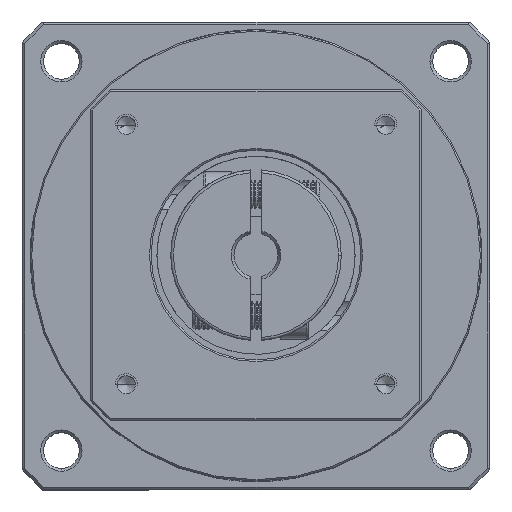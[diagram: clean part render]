
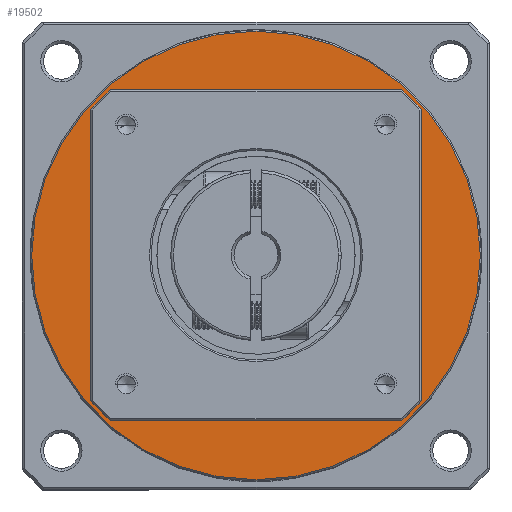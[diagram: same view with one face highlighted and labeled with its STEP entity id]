
A CAD part, top view. The second image highlights one B-rep face of the part: STEP entity #19502.
In plain terms, the highlighted planar face has unit normal (0, 0, 1).
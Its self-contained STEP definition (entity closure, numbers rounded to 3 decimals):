
#2760 = EDGE_CURVE ( 'NONE', #104283, #95379, #100036, .T. ) ;
#3862 = DIRECTION ( 'NONE',  ( 0., 0., -1. ) ) ;
#4429 = AXIS2_PLACEMENT_3D ( 'NONE', #95350, #42813, #104211 ) ;
#4798 = AXIS2_PLACEMENT_3D ( 'NONE', #56524, #3862, #65338 ) ;
#7706 = EDGE_LOOP ( 'NONE', ( #36649, #38821 ) ) ;
#12635 = EDGE_CURVE ( 'NONE', #56047, #16868, #69539, .T. ) ;
#13596 = CARTESIAN_POINT ( 'NONE',  ( -63.009, 61.266, -20.918 ) ) ;
#16868 = VERTEX_POINT ( 'NONE', #63360 ) ;
#18891 = DIRECTION ( 'NONE',  ( 0., 0., -1. ) ) ;
#19502 = ADVANCED_FACE ( 'NONE', ( #107523, #110208 ), #106527, .T. ) ;
#22646 = CARTESIAN_POINT ( 'NONE',  ( -63.009, 20.516, -20.918 ) ) ;
#27048 = ORIENTED_EDGE ( 'NONE', *, *, #2760, .F. ) ;
#27870 = CARTESIAN_POINT ( 'NONE',  ( -63.009, 20.516, -20.918 ) ) ;
#28361 = EDGE_LOOP ( 'NONE', ( #85985, #27048 ) ) ;
#31525 = DIRECTION ( 'NONE',  ( -1., 0., 0. ) ) ;
#34337 = AXIS2_PLACEMENT_3D ( 'NONE', #27870, #89174, #36648 ) ;
#36648 = DIRECTION ( 'NONE',  ( 1., 0., 0. ) ) ;
#36649 = ORIENTED_EDGE ( 'NONE', *, *, #110773, .T. ) ;
#36877 = EDGE_CURVE ( 'NONE', #95379, #104283, #46194, .T. ) ;
#38821 = ORIENTED_EDGE ( 'NONE', *, *, #12635, .T. ) ;
#42813 = DIRECTION ( 'NONE',  ( 0., 0., -1. ) ) ;
#46194 = CIRCLE ( 'NONE', #108368, 40.75 ) ;
#56047 = VERTEX_POINT ( 'NONE', #108330 ) ;
#56524 = CARTESIAN_POINT ( 'NONE',  ( -63.009, 20.516, -20.918 ) ) ;
#59796 = CARTESIAN_POINT ( 'NONE',  ( -63.009, -20.234, -20.918 ) ) ;
#63360 = CARTESIAN_POINT ( 'NONE',  ( -93.009, 20.516, -20.918 ) ) ;
#65338 = DIRECTION ( 'NONE',  ( 0., 1., 0. ) ) ;
#69539 = CIRCLE ( 'NONE', #111025, 30. ) ;
#71466 = CARTESIAN_POINT ( 'NONE',  ( -63.009, 20.516, -20.918 ) ) ;
#78978 = CIRCLE ( 'NONE', #4429, 30. ) ;
#80273 = DIRECTION ( 'NONE',  ( 0., 1., 0. ) ) ;
#83989 = DIRECTION ( 'NONE',  ( 0., 0., -1. ) ) ;
#85985 = ORIENTED_EDGE ( 'NONE', *, *, #36877, .F. ) ;
#89174 = DIRECTION ( 'NONE',  ( 0., 0., 1. ) ) ;
#95350 = CARTESIAN_POINT ( 'NONE',  ( -63.009, 20.516, -20.918 ) ) ;
#95379 = VERTEX_POINT ( 'NONE', #13596 ) ;
#100036 = CIRCLE ( 'NONE', #4798, 40.75 ) ;
#104211 = DIRECTION ( 'NONE',  ( -1., 0., 0. ) ) ;
#104283 = VERTEX_POINT ( 'NONE', #59796 ) ;
#106527 = PLANE ( 'NONE',  #34337 ) ;
#107523 = FACE_OUTER_BOUND ( 'NONE', #28361, .T. ) ;
#108330 = CARTESIAN_POINT ( 'NONE',  ( -33.009, 20.516, -20.918 ) ) ;
#108368 = AXIS2_PLACEMENT_3D ( 'NONE', #71466, #18891, #80273 ) ;
#110208 = FACE_BOUND ( 'NONE', #7706, .T. ) ;
#110773 = EDGE_CURVE ( 'NONE', #16868, #56047, #78978, .T. ) ;
#111025 = AXIS2_PLACEMENT_3D ( 'NONE', #22646, #83989, #31525 ) ;
